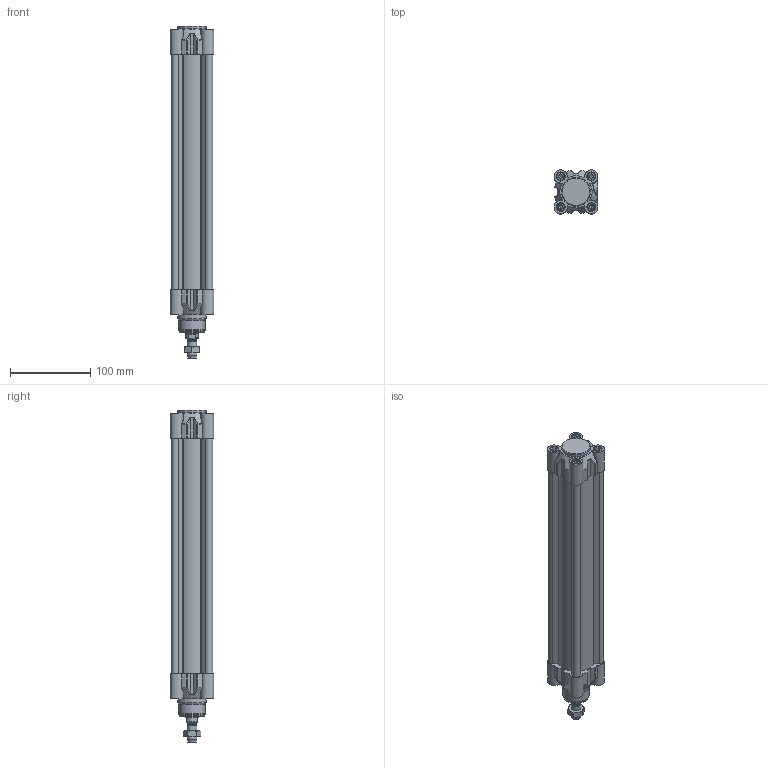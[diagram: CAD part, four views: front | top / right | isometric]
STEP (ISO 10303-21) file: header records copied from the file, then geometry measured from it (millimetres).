
FILE_DESCRIPTION(/* description */ ('Unknown'),/* implementation_level */ '2;1');
FILE_NAME(/* name */ 'HIF 40_250',/* time_stamp */ '2024-08-09T14:51:33+02:00',/* author */ ('Unknown'),/* organization */ ('Unknown'),/* preprocessor_version */ 'ST-DEVELOPER v16.7',/* originating_system */ 'Solid Edge',/* authorisation */ 'Unknown');
FILE_SCHEMA (('AUTOMOTIVE_DESIGN {1 0 10303 214 3 1 1}'));
Length unit declared in the file: millimetre
Products named in the file (6): HIF 40_250; Kit_2; Kit_1; Profilrohr 40_250; Mutter; Kolbenstange 40_250
Assembly tree (5 placements, depth 2):
  HIF 40_250
    Kit_2
    Kit_1
    Profilrohr 40_250
    Mutter
    Kolbenstange 40_250
Bounding box: 54.5 x 54.5 x 413 mm (x, y, z)
Volume: 460369.9 mm3; surface area: 231073.2 mm2
Topology: 5 solids, 10 shells, 922 faces, 2342 edges, 1525 vertices
Faces by surface type: plane 367, cylinder 300, cone 89, torus 74, bspline 74, sphere 18
Full cylindrical faces by diameter (mm): 2.5 x2, 4.917 x16, 6 x8, 6.2 x8, 7 x2, 9.9 x2, 10 x13, 10.3 x8, 10.647 x1, 11.44 x2, 11.445 x2, 12 x1, 15.5 x1, 16 x2, 16.6 x1, 16.8 x1, 16.847 x1, 20 x1, 26 x2, 33 x1, 35 x2, 40 x2
Entity records: 35939 total; most frequent: CARTESIAN_POINT 8998, ORIENTED_EDGE 4544, DIRECTION 4322, EDGE_CURVE 2272, AXIS2_PLACEMENT_3D 1647, VERTEX_POINT 1507, FACE_BOUND 1081, EDGE_LOOP 1073
